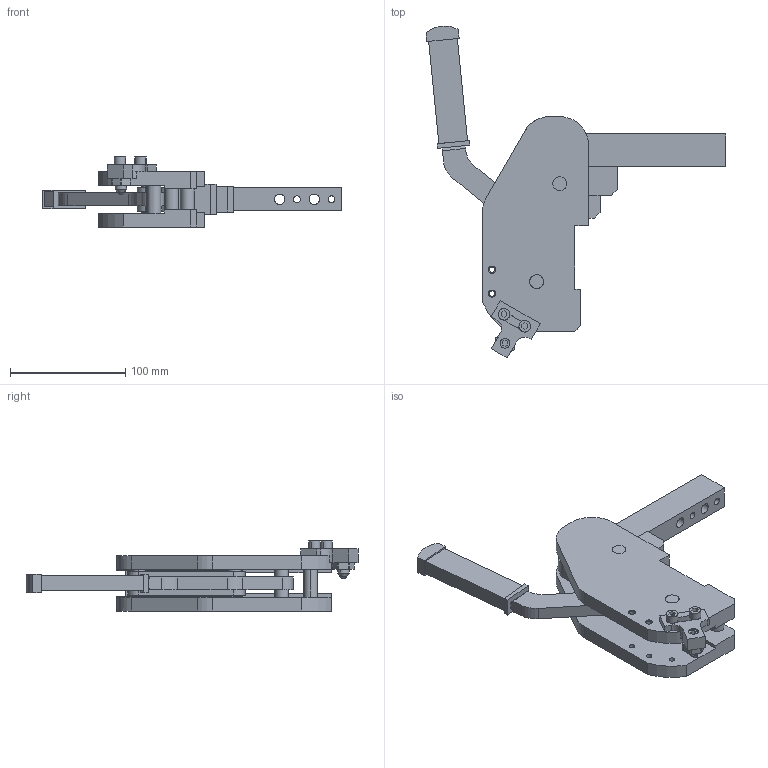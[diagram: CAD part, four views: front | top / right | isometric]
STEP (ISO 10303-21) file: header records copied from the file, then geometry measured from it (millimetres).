
FILE_DESCRIPTION (( 'STEP AP214' ), '1' );
FILE_NAME ('mc_v1c_ld.STEP', '2014-03-17T09:15:37', ( 'vep' ), ( 'TOSHIBA' ), 'SwSTEP 2.0', 'SolidWorks 2013', '' );
FILE_SCHEMA (( 'AUTOMOTIVE_DESIGN' ));
Length unit declared in the file: millimetre
Products named in the file (7): mc_v1c_ld; gruppo_montante_mc; leva_mc; biella_leva_mc_; biella_mc; staffa_fermo_leva_mc; leva_v1c_o1c_mc
Assembly tree (7 placements, depth 2):
  mc_v1c_ld
    gruppo_montante_mc
    leva_mc
    biella_leva_mc_
    biella_mc  x2
    staffa_fermo_leva_mc
    leva_v1c_o1c_mc
Bounding box: 259.82 x 287.68 x 60.7 mm (x, y, z)
Volume: 586357.9 mm3; surface area: 144891.3 mm2
Topology: 7 solids, 7 shells, 380 faces, 965 edges, 609 vertices
Faces by surface type: plane 169, cylinder 151, cone 58, sphere 2
Entity records: 11960 total; most frequent: DIRECTION 1986, CARTESIAN_POINT 1860, ORIENTED_EDGE 1804, EDGE_CURVE 902, AXIS2_PLACEMENT_3D 709, VERTEX_POINT 583, VECTOR 568, LINE 568
